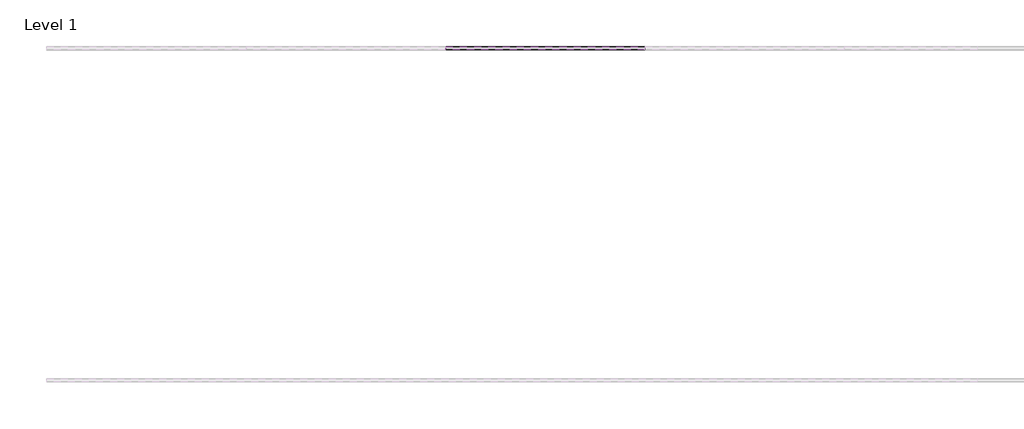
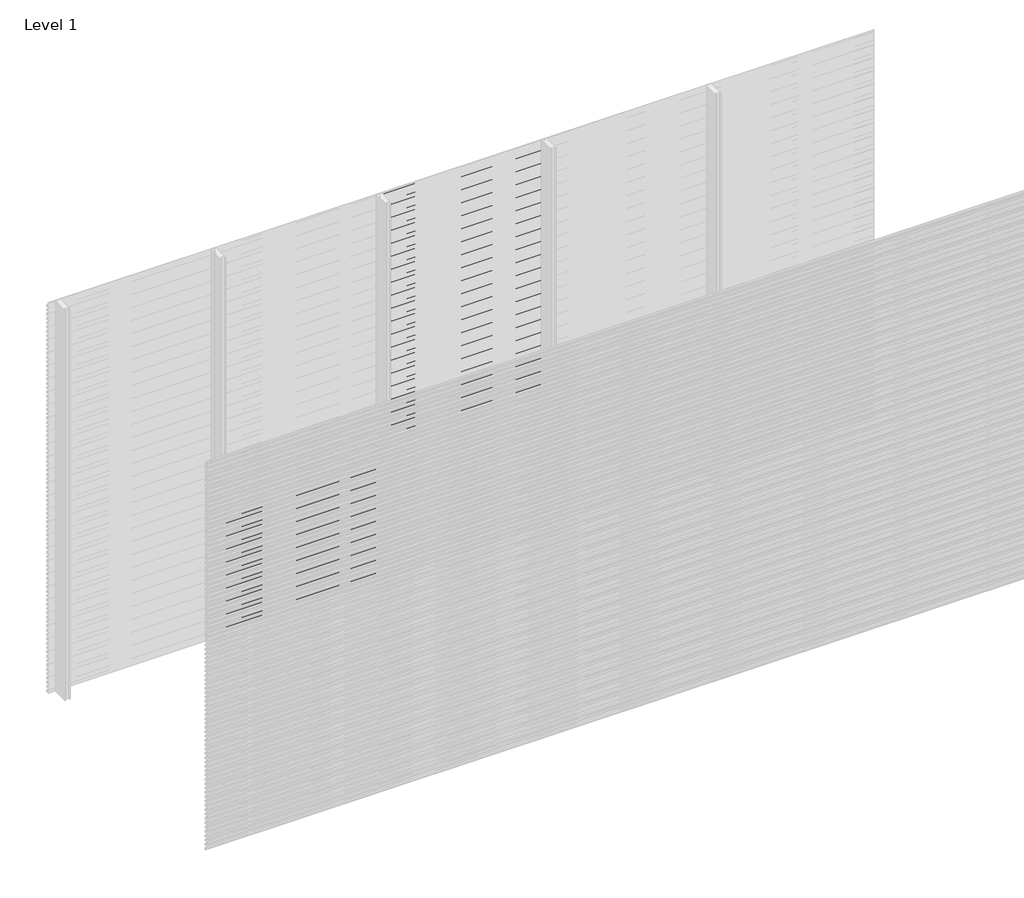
# One storey, part 19 of 507: 84 proxies.
"""IFC4 building model written with IfcOpenShell, lengths in millimetres."""

from ifc_helpers import new_model, si_unit, frame, origin, place, context, project, spatial, polyline, outline, extrude, element, save

model = new_model("IFC4")

# Units and contexts
model_context = context("Model", 3, world=origin())
ifc_project = project(units=[si_unit("LENGTHUNIT", "METRE", prefix="MILLI")], contexts=[model_context])

# Site, building, storey
site = spatial("IfcSite", under=ifc_project)
building = spatial("IfcBuilding", under=site)
storey = spatial("IfcBuildingStorey", under=building, Name="Level 1", Elevation=0.0)

# Proxies
placement = place(None, origin())
element("IfcBuildingElementProxy", 1, Name="Wall Sweeps", at=placement, inside=storey, context=model_context, shape_type="SweptSolid", body=[
    extrude(outline(polyline([(14003.4540136, 875.1), (14003.4540136, 861.6), (14002.2040136, 862.3216933), (14002.2040136, 874.3782281), (13983.0540136, 885.4345698), (13983.0540136, 899.1), (13984.3040136, 899.1), (13984.3040136, 886.1562577), (14003.4540136, 875.1)])), frame((46166.6208099, 0.0, 0.0), z_axis=(1.0, 0.0, 0.0), x_axis=(0.0, 1.0, 0.0)), (0.0, 0.0, 1.0), 1199.9999999),
])
element("IfcBuildingElementProxy", 2, Name="Wall Sweeps", at=placement, inside=storey, context=model_context, shape_type="SweptSolid", body=[
    extrude(outline(polyline([(14003.4540136, 841.8), (14003.4540136, 828.3), (14002.2040136, 829.0216933), (14002.2040136, 841.0782281), (13983.0540136, 852.1345698), (13983.0540136, 865.8), (13984.3040136, 865.8), (13984.3040136, 852.8562577), (14003.4540136, 841.8)])), frame((46166.6208099, 0.0, 0.0), z_axis=(1.0, 0.0, 0.0), x_axis=(0.0, 1.0, 0.0)), (0.0, 0.0, 1.0), 1199.9999999),
])
element("IfcBuildingElementProxy", 3, Name="Wall Sweeps", at=placement, inside=storey, context=model_context, shape_type="SweptSolid", body=[
    extrude(outline(polyline([(14003.4540136, 808.5), (14003.4540136, 795.0), (14002.2040136, 795.7216933), (14002.2040136, 807.7782281), (13983.0540136, 818.8345698), (13983.0540136, 832.5), (13984.3040136, 832.5), (13984.3040136, 819.5562577), (14003.4540136, 808.5)])), frame((46166.6208099, 0.0, 0.0), z_axis=(1.0, 0.0, 0.0), x_axis=(0.0, 1.0, 0.0)), (0.0, 0.0, 1.0), 1199.9999999),
])
element("IfcBuildingElementProxy", 4, Name="Wall Sweeps", at=placement, inside=storey, context=model_context, shape_type="SweptSolid", body=[
    extrude(outline(polyline([(14003.4540136, 775.2), (14003.4540136, 761.7), (14002.2040136, 762.4216933), (14002.2040136, 774.4782281), (13983.0540136, 785.5345698), (13983.0540136, 799.2), (13984.3040136, 799.2), (13984.3040136, 786.2562577), (14003.4540136, 775.2)])), frame((46166.6208099, 0.0, 0.0), z_axis=(1.0, 0.0, 0.0), x_axis=(0.0, 1.0, 0.0)), (0.0, 0.0, 1.0), 1199.9999999),
])
element("IfcBuildingElementProxy", 5, Name="Wall Sweeps", at=placement, inside=storey, context=model_context, shape_type="SweptSolid", body=[
    extrude(outline(polyline([(14003.4540136, 741.9), (14003.4540136, 728.4), (14002.2040136, 729.1216933), (14002.2040136, 741.1782281), (13983.0540136, 752.2345698), (13983.0540136, 765.9), (13984.3040136, 765.9), (13984.3040136, 752.9562577), (14003.4540136, 741.9)])), frame((46166.6208099, 0.0, 0.0), z_axis=(1.0, 0.0, 0.0), x_axis=(0.0, 1.0, 0.0)), (0.0, 0.0, 1.0), 1199.9999999),
])
element("IfcBuildingElementProxy", 6, Name="Wall Sweeps", at=placement, inside=storey, context=model_context, shape_type="SweptSolid", body=[
    extrude(outline(polyline([(14003.4540136, 708.6), (14003.4540136, 695.1), (14002.2040136, 695.8216933), (14002.2040136, 707.8782281), (13983.0540136, 718.9345698), (13983.0540136, 732.6), (13984.3040136, 732.6), (13984.3040136, 719.6562577), (14003.4540136, 708.6)])), frame((46166.6208099, 0.0, 0.0), z_axis=(1.0, 0.0, 0.0), x_axis=(0.0, 1.0, 0.0)), (0.0, 0.0, 1.0), 1199.9999999),
])
element("IfcBuildingElementProxy", 7, Name="Wall Sweeps", at=placement, inside=storey, context=model_context, shape_type="SweptSolid", body=[
    extrude(outline(polyline([(14003.4540136, 675.3), (14003.4540136, 661.8), (14002.2040136, 662.5216933), (14002.2040136, 674.5782281), (13983.0540136, 685.6345698), (13983.0540136, 699.3), (13984.3040136, 699.3), (13984.3040136, 686.3562577), (14003.4540136, 675.3)])), frame((46166.6208099, 0.0, 0.0), z_axis=(1.0, 0.0, 0.0), x_axis=(0.0, 1.0, 0.0)), (0.0, 0.0, 1.0), 1199.9999999),
])
element("IfcBuildingElementProxy", 8, Name="Wall Sweeps", at=placement, inside=storey, context=model_context, shape_type="SweptSolid", body=[
    extrude(outline(polyline([(14003.4540136, 642.0), (14003.4540136, 628.5), (14002.2040136, 629.2216933), (14002.2040136, 641.2782281), (13983.0540136, 652.3345698), (13983.0540136, 666.0), (13984.3040136, 666.0), (13984.3040136, 653.0562577), (14003.4540136, 642.0)])), frame((46166.6208099, 0.0, 0.0), z_axis=(1.0, 0.0, 0.0), x_axis=(0.0, 1.0, 0.0)), (0.0, 0.0, 1.0), 1199.9999999),
])
element("IfcBuildingElementProxy", 9, Name="Wall Sweeps", at=placement, inside=storey, context=model_context, shape_type="SweptSolid", body=[
    extrude(outline(polyline([(14003.4540136, 608.7), (14003.4540136, 595.2), (14002.2040136, 595.9216933), (14002.2040136, 607.9782281), (13983.0540136, 619.0345698), (13983.0540136, 632.7), (13984.3040136, 632.7), (13984.3040136, 619.7562577), (14003.4540136, 608.7)])), frame((46166.6208099, 0.0, 0.0), z_axis=(1.0, 0.0, 0.0), x_axis=(0.0, 1.0, 0.0)), (0.0, 0.0, 1.0), 1199.9999999),
])
element("IfcBuildingElementProxy", 10, Name="Wall Sweeps", at=placement, inside=storey, context=model_context, shape_type="SweptSolid", body=[
    extrude(outline(polyline([(14003.4540136, 575.4), (14003.4540136, 561.9), (14002.2040136, 562.6216933), (14002.2040136, 574.6782281), (13983.0540136, 585.7345698), (13983.0540136, 599.4), (13984.3040136, 599.4), (13984.3040136, 586.4562577), (14003.4540136, 575.4)])), frame((46166.6208099, 0.0, 0.0), z_axis=(1.0, 0.0, 0.0), x_axis=(0.0, 1.0, 0.0)), (0.0, 0.0, 1.0), 1199.9999999),
])
element("IfcBuildingElementProxy", 11, Name="Wall Sweeps", at=placement, inside=storey, context=model_context, shape_type="SweptSolid", body=[
    extrude(outline(polyline([(14003.4540136, 542.1), (14003.4540136, 528.6), (14002.2040136, 529.3216933), (14002.2040136, 541.3782281), (13983.0540136, 552.4345698), (13983.0540136, 566.1), (13984.3040136, 566.1), (13984.3040136, 553.1562577), (14003.4540136, 542.1)])), frame((46166.6208099, 0.0, 0.0), z_axis=(1.0, 0.0, 0.0), x_axis=(0.0, 1.0, 0.0)), (0.0, 0.0, 1.0), 1199.9999999),
])
element("IfcBuildingElementProxy", 12, Name="Wall Sweeps", at=placement, inside=storey, context=model_context, shape_type="SweptSolid", body=[
    extrude(outline(polyline([(14003.4540136, 508.8), (14003.4540136, 495.3), (14002.2040136, 496.0216933), (14002.2040136, 508.0782281), (13983.0540136, 519.1345698), (13983.0540136, 532.8), (13984.3040136, 532.8), (13984.3040136, 519.8562577), (14003.4540136, 508.8)])), frame((46166.6208099, 0.0, 0.0), z_axis=(1.0, 0.0, 0.0), x_axis=(0.0, 1.0, 0.0)), (0.0, 0.0, 1.0), 1199.9999999),
])
element("IfcBuildingElementProxy", 13, Name="Wall Sweeps", at=placement, inside=storey, context=model_context, shape_type="SweptSolid", body=[
    extrude(outline(polyline([(14003.4540136, 475.5), (14003.4540136, 462.0), (14002.2040136, 462.7216933), (14002.2040136, 474.7782281), (13983.0540136, 485.8345698), (13983.0540136, 499.5), (13984.3040136, 499.5), (13984.3040136, 486.5562577), (14003.4540136, 475.5)])), frame((46166.6208099, 0.0, 0.0), z_axis=(1.0, 0.0, 0.0), x_axis=(0.0, 1.0, 0.0)), (0.0, 0.0, 1.0), 1199.9999999),
])
element("IfcBuildingElementProxy", 14, Name="Wall Sweeps", at=placement, inside=storey, context=model_context, shape_type="SweptSolid", body=[
    extrude(outline(polyline([(14003.4540136, 442.2), (14003.4540136, 428.7), (14002.2040136, 429.4216933), (14002.2040136, 441.4782281), (13983.0540136, 452.5345698), (13983.0540136, 466.2), (13984.3040136, 466.2), (13984.3040136, 453.2562577), (14003.4540136, 442.2)])), frame((46166.6208099, 0.0, 0.0), z_axis=(1.0, 0.0, 0.0), x_axis=(0.0, 1.0, 0.0)), (0.0, 0.0, 1.0), 1199.9999999),
])
element("IfcBuildingElementProxy", 15, Name="Wall Sweeps", at=placement, inside=storey, context=model_context, shape_type="SweptSolid", body=[
    extrude(outline(polyline([(14003.4540136, 408.9), (14003.4540136, 395.4), (14002.2040136, 396.1216933), (14002.2040136, 408.1782281), (13983.0540136, 419.2345698), (13983.0540136, 432.9), (13984.3040136, 432.9), (13984.3040136, 419.9562577), (14003.4540136, 408.9)])), frame((46166.6208099, 0.0, 0.0), z_axis=(1.0, 0.0, 0.0), x_axis=(0.0, 1.0, 0.0)), (0.0, 0.0, 1.0), 1199.9999999),
])
element("IfcBuildingElementProxy", 16, Name="Wall Sweeps", at=placement, inside=storey, context=model_context, shape_type="SweptSolid", body=[
    extrude(outline(polyline([(14003.4540136, 375.6), (14003.4540136, 362.1), (14002.2040136, 362.8216933), (14002.2040136, 374.8782281), (13983.0540136, 385.9345698), (13983.0540136, 399.6), (13984.3040136, 399.6), (13984.3040136, 386.6562577), (14003.4540136, 375.6)])), frame((46166.6208099, 0.0, 0.0), z_axis=(1.0, 0.0, 0.0), x_axis=(0.0, 1.0, 0.0)), (0.0, 0.0, 1.0), 1199.9999999),
])
element("IfcBuildingElementProxy", 17, Name="Wall Sweeps", at=placement, inside=storey, context=model_context, shape_type="SweptSolid", body=[
    extrude(outline(polyline([(14003.4540136, 342.3), (14003.4540136, 328.8), (14002.2040136, 329.5216933), (14002.2040136, 341.5782281), (13983.0540136, 352.6345698), (13983.0540136, 366.3), (13984.3040136, 366.3), (13984.3040136, 353.3562577), (14003.4540136, 342.3)])), frame((46166.6208099, 0.0, 0.0), z_axis=(1.0, 0.0, 0.0), x_axis=(0.0, 1.0, 0.0)), (0.0, 0.0, 1.0), 1199.9999999),
])
element("IfcBuildingElementProxy", 18, Name="Wall Sweeps", at=placement, inside=storey, context=model_context, shape_type="SweptSolid", body=[
    extrude(outline(polyline([(14003.4540136, 309.0), (14003.4540136, 295.5), (14002.2040136, 296.2216933), (14002.2040136, 308.2782281), (13983.0540136, 319.3345698), (13983.0540136, 333.0), (13984.3040136, 333.0), (13984.3040136, 320.0562577), (14003.4540136, 309.0)])), frame((46166.6208099, 0.0, 0.0), z_axis=(1.0, 0.0, 0.0), x_axis=(0.0, 1.0, 0.0)), (0.0, 0.0, 1.0), 1199.9999999),
])
element("IfcBuildingElementProxy", 19, Name="Wall Sweeps", at=placement, inside=storey, context=model_context, shape_type="SweptSolid", body=[
    extrude(outline(polyline([(14003.4540136, 275.7), (14003.4540136, 262.2), (14002.2040136, 262.9216933), (14002.2040136, 274.9782281), (13983.0540136, 286.0345698), (13983.0540136, 299.7), (13984.3040136, 299.7), (13984.3040136, 286.7562577), (14003.4540136, 275.7)])), frame((46166.6208099, 0.0, 0.0), z_axis=(1.0, 0.0, 0.0), x_axis=(0.0, 1.0, 0.0)), (0.0, 0.0, 1.0), 1199.9999999),
])
element("IfcBuildingElementProxy", 20, Name="Wall Sweeps", at=placement, inside=storey, context=model_context, shape_type="SweptSolid", body=[
    extrude(outline(polyline([(14003.4540136, 242.4), (14003.4540136, 228.9), (14002.2040136, 229.6216933), (14002.2040136, 241.6782281), (13983.0540136, 252.7345698), (13983.0540136, 266.4), (13984.3040136, 266.4), (13984.3040136, 253.4562577), (14003.4540136, 242.4)])), frame((46166.6208099, 0.0, 0.0), z_axis=(1.0, 0.0, 0.0), x_axis=(0.0, 1.0, 0.0)), (0.0, 0.0, 1.0), 1199.9999999),
])
element("IfcBuildingElementProxy", 21, Name="Wall Sweeps", at=placement, inside=storey, context=model_context, shape_type="SweptSolid", body=[
    extrude(outline(polyline([(14003.4540136, 209.1), (14003.4540136, 195.6), (14002.2040136, 196.3216933), (14002.2040136, 208.3782281), (13983.0540136, 219.4345698), (13983.0540136, 233.1), (13984.3040136, 233.1), (13984.3040136, 220.1562577), (14003.4540136, 209.1)])), frame((46166.6208099, 0.0, 0.0), z_axis=(1.0, 0.0, 0.0), x_axis=(0.0, 1.0, 0.0)), (0.0, 0.0, 1.0), 1199.9999999),
])
element("IfcBuildingElementProxy", 22, Name="Wall Sweeps", at=placement, inside=storey, context=model_context, shape_type="SweptSolid", body=[
    extrude(outline(polyline([(14003.4540136, 175.8), (14003.4540136, 162.3), (14002.2040136, 163.0216933), (14002.2040136, 175.0782281), (13983.0540136, 186.1345698), (13983.0540136, 199.8), (13984.3040136, 199.8), (13984.3040136, 186.8562577), (14003.4540136, 175.8)])), frame((46166.6208099, 0.0, 0.0), z_axis=(1.0, 0.0, 0.0), x_axis=(0.0, 1.0, 0.0)), (0.0, 0.0, 1.0), 1199.9999999),
])
element("IfcBuildingElementProxy", 23, Name="Wall Sweeps", at=placement, inside=storey, context=model_context, shape_type="SweptSolid", body=[
    extrude(outline(polyline([(14003.4540136, 142.5), (14003.4540136, 129.0), (14002.2040136, 129.7216933), (14002.2040136, 141.7782281), (13983.0540136, 152.8345698), (13983.0540136, 166.5), (13984.3040136, 166.5), (13984.3040136, 153.5562577), (14003.4540136, 142.5)])), frame((46166.6208099, 0.0, 0.0), z_axis=(1.0, 0.0, 0.0), x_axis=(0.0, 1.0, 0.0)), (0.0, 0.0, 1.0), 1199.9999999),
])
element("IfcBuildingElementProxy", 24, Name="Wall Sweeps", at=placement, inside=storey, context=model_context, shape_type="SweptSolid", body=[
    extrude(outline(polyline([(14003.4540136, 109.2), (14003.4540136, 95.7), (14002.2040136, 96.4216933), (14002.2040136, 108.4782281), (13983.0540136, 119.5345698), (13983.0540136, 133.2), (13984.3040136, 133.2), (13984.3040136, 120.2562577), (14003.4540136, 109.2)])), frame((46166.6208099, 0.0, 0.0), z_axis=(1.0, 0.0, 0.0), x_axis=(0.0, 1.0, 0.0)), (0.0, 0.0, 1.0), 1199.9999999),
])
element("IfcBuildingElementProxy", 25, Name="Wall Sweeps", at=placement, inside=storey, context=model_context, shape_type="SweptSolid", body=[
    extrude(outline(polyline([(14003.4540136, 75.9), (14003.4540136, 62.4), (14002.2040136, 63.1216933), (14002.2040136, 75.1782281), (13983.0540136, 86.2345698), (13983.0540136, 99.9), (13984.3040136, 99.9), (13984.3040136, 86.9562577), (14003.4540136, 75.9)])), frame((46166.6208099, 0.0, 0.0), z_axis=(1.0, 0.0, 0.0), x_axis=(0.0, 1.0, 0.0)), (0.0, 0.0, 1.0), 1199.9999999),
])
element("IfcBuildingElementProxy", 26, Name="Wall Sweeps", at=placement, inside=storey, context=model_context, shape_type="SweptSolid", body=[
    extrude(outline(polyline([(14003.4540136, 42.6), (14003.4540136, 29.1), (14002.2040136, 29.8216933), (14002.2040136, 41.8782281), (13983.0540136, 52.9345698), (13983.0540136, 66.6), (13984.3040136, 66.6), (13984.3040136, 53.6562577), (14003.4540136, 42.6)])), frame((46166.6208099, 0.0, 0.0), z_axis=(1.0, 0.0, 0.0), x_axis=(0.0, 1.0, 0.0)), (0.0, 0.0, 1.0), 1199.9999999),
])
element("IfcBuildingElementProxy", 27, Name="Wall Sweeps", at=placement, inside=storey, context=model_context, shape_type="SweptSolid", body=[
    extrude(outline(polyline([(14003.4540136, 9.3), (14003.4540136, -4.2), (14002.2040136, -3.4783067), (14002.2040136, 8.5782281), (13983.0540136, 19.6345698), (13983.0540136, 33.3), (13984.3040136, 33.3), (13984.3040136, 20.3562577), (14003.4540136, 9.3)])), frame((46166.6208099, 0.0, 0.0), z_axis=(1.0, 0.0, 0.0), x_axis=(0.0, 1.0, 0.0)), (0.0, 0.0, 1.0), 1199.9999999),
])
element("IfcBuildingElementProxy", 28, Name="Wall Sweeps", at=placement, inside=storey, context=model_context, shape_type="SweptSolid", body=[
    extrude(outline(polyline([(14003.4540136, 2973.0), (14003.4540136, 2959.5), (14002.2040136, 2960.2216933), (14002.2040136, 2972.2782281), (13983.0540136, 2983.3345698), (13983.0540136, 2997.0), (13984.3040136, 2997.0), (13984.3040136, 2984.0562577), (14003.4540136, 2973.0)])), frame((47366.6208097, 0.0, 0.0), z_axis=(1.0, 0.0, 0.0), x_axis=(0.0, 1.0, 0.0)), (0.0, 0.0, 1.0), 1199.9999999),
])
element("IfcBuildingElementProxy", 29, Name="Wall Sweeps", at=placement, inside=storey, context=model_context, shape_type="SweptSolid", body=[
    extrude(outline(polyline([(14003.4540136, 2939.7), (14003.4540136, 2926.2), (14002.2040136, 2926.9216933), (14002.2040136, 2938.9782281), (13983.0540136, 2950.0345698), (13983.0540136, 2963.7), (13984.3040136, 2963.7), (13984.3040136, 2950.7562577), (14003.4540136, 2939.7)])), frame((47366.6208097, 0.0, 0.0), z_axis=(1.0, 0.0, 0.0), x_axis=(0.0, 1.0, 0.0)), (0.0, 0.0, 1.0), 1199.9999999),
])
element("IfcBuildingElementProxy", 30, Name="Wall Sweeps", at=placement, inside=storey, context=model_context, shape_type="SweptSolid", body=[
    extrude(outline(polyline([(14003.4540136, 2906.4), (14003.4540136, 2892.9), (14002.2040136, 2893.6216933), (14002.2040136, 2905.6782281), (13983.0540136, 2916.7345698), (13983.0540136, 2930.4), (13984.3040136, 2930.4), (13984.3040136, 2917.4562577), (14003.4540136, 2906.4)])), frame((47366.6208097, 0.0, 0.0), z_axis=(1.0, 0.0, 0.0), x_axis=(0.0, 1.0, 0.0)), (0.0, 0.0, 1.0), 1199.9999999),
])
element("IfcBuildingElementProxy", 31, Name="Wall Sweeps", at=placement, inside=storey, context=model_context, shape_type="SweptSolid", body=[
    extrude(outline(polyline([(14003.4540136, 2873.1), (14003.4540136, 2859.6), (14002.2040136, 2860.3216933), (14002.2040136, 2872.3782281), (13983.0540136, 2883.4345698), (13983.0540136, 2897.1), (13984.3040136, 2897.1), (13984.3040136, 2884.1562577), (14003.4540136, 2873.1)])), frame((47366.6208097, 0.0, 0.0), z_axis=(1.0, 0.0, 0.0), x_axis=(0.0, 1.0, 0.0)), (0.0, 0.0, 1.0), 1199.9999999),
])
element("IfcBuildingElementProxy", 32, Name="Wall Sweeps", at=placement, inside=storey, context=model_context, shape_type="SweptSolid", body=[
    extrude(outline(polyline([(14003.4540136, 2839.8), (14003.4540136, 2826.3), (14002.2040136, 2827.0216933), (14002.2040136, 2839.0782281), (13983.0540136, 2850.1345698), (13983.0540136, 2863.8), (13984.3040136, 2863.8), (13984.3040136, 2850.8562577), (14003.4540136, 2839.8)])), frame((47366.6208097, 0.0, 0.0), z_axis=(1.0, 0.0, 0.0), x_axis=(0.0, 1.0, 0.0)), (0.0, 0.0, 1.0), 1199.9999999),
])
element("IfcBuildingElementProxy", 33, Name="Wall Sweeps", at=placement, inside=storey, context=model_context, shape_type="SweptSolid", body=[
    extrude(outline(polyline([(14003.4540136, 2806.5), (14003.4540136, 2793.0), (14002.2040136, 2793.7216933), (14002.2040136, 2805.7782281), (13983.0540136, 2816.8345698), (13983.0540136, 2830.5), (13984.3040136, 2830.5), (13984.3040136, 2817.5562577), (14003.4540136, 2806.5)])), frame((47366.6208097, 0.0, 0.0), z_axis=(1.0, 0.0, 0.0), x_axis=(0.0, 1.0, 0.0)), (0.0, 0.0, 1.0), 1199.9999999),
])
element("IfcBuildingElementProxy", 34, Name="Wall Sweeps", at=placement, inside=storey, context=model_context, shape_type="SweptSolid", body=[
    extrude(outline(polyline([(14003.4540136, 2773.2), (14003.4540136, 2759.7), (14002.2040136, 2760.4216933), (14002.2040136, 2772.4782281), (13983.0540136, 2783.5345698), (13983.0540136, 2797.2), (13984.3040136, 2797.2), (13984.3040136, 2784.2562577), (14003.4540136, 2773.2)])), frame((47366.6208097, 0.0, 0.0), z_axis=(1.0, 0.0, 0.0), x_axis=(0.0, 1.0, 0.0)), (0.0, 0.0, 1.0), 1199.9999999),
])
element("IfcBuildingElementProxy", 35, Name="Wall Sweeps", at=placement, inside=storey, context=model_context, shape_type="SweptSolid", body=[
    extrude(outline(polyline([(14003.4540136, 2739.9), (14003.4540136, 2726.4), (14002.2040136, 2727.1216933), (14002.2040136, 2739.1782281), (13983.0540136, 2750.2345698), (13983.0540136, 2763.9), (13984.3040136, 2763.9), (13984.3040136, 2750.9562577), (14003.4540136, 2739.9)])), frame((47366.6208097, 0.0, 0.0), z_axis=(1.0, 0.0, 0.0), x_axis=(0.0, 1.0, 0.0)), (0.0, 0.0, 1.0), 1199.9999999),
])
element("IfcBuildingElementProxy", 36, Name="Wall Sweeps", at=placement, inside=storey, context=model_context, shape_type="SweptSolid", body=[
    extrude(outline(polyline([(14003.4540136, 2706.6), (14003.4540136, 2693.1), (14002.2040136, 2693.8216933), (14002.2040136, 2705.8782281), (13983.0540136, 2716.9345698), (13983.0540136, 2730.6), (13984.3040136, 2730.6), (13984.3040136, 2717.6562577), (14003.4540136, 2706.6)])), frame((47366.6208097, 0.0, 0.0), z_axis=(1.0, 0.0, 0.0), x_axis=(0.0, 1.0, 0.0)), (0.0, 0.0, 1.0), 1199.9999999),
])
element("IfcBuildingElementProxy", 37, Name="Wall Sweeps", at=placement, inside=storey, context=model_context, shape_type="SweptSolid", body=[
    extrude(outline(polyline([(14003.4540136, 2673.3), (14003.4540136, 2659.8), (14002.2040136, 2660.5216933), (14002.2040136, 2672.5782281), (13983.0540136, 2683.6345698), (13983.0540136, 2697.3), (13984.3040136, 2697.3), (13984.3040136, 2684.3562577), (14003.4540136, 2673.3)])), frame((47366.6208097, 0.0, 0.0), z_axis=(1.0, 0.0, 0.0), x_axis=(0.0, 1.0, 0.0)), (0.0, 0.0, 1.0), 1199.9999999),
])
element("IfcBuildingElementProxy", 38, Name="Wall Sweeps", at=placement, inside=storey, context=model_context, shape_type="SweptSolid", body=[
    extrude(outline(polyline([(14003.4540136, 2640.0), (14003.4540136, 2626.5), (14002.2040136, 2627.2216933), (14002.2040136, 2639.2782281), (13983.0540136, 2650.3345698), (13983.0540136, 2664.0), (13984.3040136, 2664.0), (13984.3040136, 2651.0562577), (14003.4540136, 2640.0)])), frame((47366.6208097, 0.0, 0.0), z_axis=(1.0, 0.0, 0.0), x_axis=(0.0, 1.0, 0.0)), (0.0, 0.0, 1.0), 1199.9999999),
])
element("IfcBuildingElementProxy", 39, Name="Wall Sweeps", at=placement, inside=storey, context=model_context, shape_type="SweptSolid", body=[
    extrude(outline(polyline([(14003.4540136, 2606.7), (14003.4540136, 2593.2), (14002.2040136, 2593.9216933), (14002.2040136, 2605.9782281), (13983.0540136, 2617.0345698), (13983.0540136, 2630.7), (13984.3040136, 2630.7), (13984.3040136, 2617.7562577), (14003.4540136, 2606.7)])), frame((47366.6208097, 0.0, 0.0), z_axis=(1.0, 0.0, 0.0), x_axis=(0.0, 1.0, 0.0)), (0.0, 0.0, 1.0), 1199.9999999),
])
element("IfcBuildingElementProxy", 40, Name="Wall Sweeps", at=placement, inside=storey, context=model_context, shape_type="SweptSolid", body=[
    extrude(outline(polyline([(14003.4540136, 2573.4), (14003.4540136, 2559.9), (14002.2040136, 2560.6216933), (14002.2040136, 2572.6782281), (13983.0540136, 2583.7345698), (13983.0540136, 2597.4), (13984.3040136, 2597.4), (13984.3040136, 2584.4562577), (14003.4540136, 2573.4)])), frame((47366.6208097, 0.0, 0.0), z_axis=(1.0, 0.0, 0.0), x_axis=(0.0, 1.0, 0.0)), (0.0, 0.0, 1.0), 1199.9999999),
])
element("IfcBuildingElementProxy", 41, Name="Wall Sweeps", at=placement, inside=storey, context=model_context, shape_type="SweptSolid", body=[
    extrude(outline(polyline([(14003.4540136, 2540.1), (14003.4540136, 2526.6), (14002.2040136, 2527.3216933), (14002.2040136, 2539.3782281), (13983.0540136, 2550.4345698), (13983.0540136, 2564.1), (13984.3040136, 2564.1), (13984.3040136, 2551.1562577), (14003.4540136, 2540.1)])), frame((47366.6208097, 0.0, 0.0), z_axis=(1.0, 0.0, 0.0), x_axis=(0.0, 1.0, 0.0)), (0.0, 0.0, 1.0), 1199.9999999),
])
element("IfcBuildingElementProxy", 42, Name="Wall Sweeps", at=placement, inside=storey, context=model_context, shape_type="SweptSolid", body=[
    extrude(outline(polyline([(14003.4540136, 2506.8), (14003.4540136, 2493.3), (14002.2040136, 2494.0216933), (14002.2040136, 2506.0782281), (13983.0540136, 2517.1345698), (13983.0540136, 2530.8), (13984.3040136, 2530.8), (13984.3040136, 2517.8562577), (14003.4540136, 2506.8)])), frame((47366.6208097, 0.0, 0.0), z_axis=(1.0, 0.0, 0.0), x_axis=(0.0, 1.0, 0.0)), (0.0, 0.0, 1.0), 1199.9999999),
])
element("IfcBuildingElementProxy", 43, Name="Wall Sweeps", at=placement, inside=storey, context=model_context, shape_type="SweptSolid", body=[
    extrude(outline(polyline([(14003.4540136, 2473.5), (14003.4540136, 2460.0), (14002.2040136, 2460.7216933), (14002.2040136, 2472.7782281), (13983.0540136, 2483.8345698), (13983.0540136, 2497.5), (13984.3040136, 2497.5), (13984.3040136, 2484.5562577), (14003.4540136, 2473.5)])), frame((47366.6208097, 0.0, 0.0), z_axis=(1.0, 0.0, 0.0), x_axis=(0.0, 1.0, 0.0)), (0.0, 0.0, 1.0), 1199.9999999),
])
element("IfcBuildingElementProxy", 44, Name="Wall Sweeps", at=placement, inside=storey, context=model_context, shape_type="SweptSolid", body=[
    extrude(outline(polyline([(14003.4540136, 2440.2), (14003.4540136, 2426.7), (14002.2040136, 2427.4216933), (14002.2040136, 2439.4782281), (13983.0540136, 2450.5345698), (13983.0540136, 2464.2), (13984.3040136, 2464.2), (13984.3040136, 2451.2562577), (14003.4540136, 2440.2)])), frame((47366.6208097, 0.0, 0.0), z_axis=(1.0, 0.0, 0.0), x_axis=(0.0, 1.0, 0.0)), (0.0, 0.0, 1.0), 1199.9999999),
])
element("IfcBuildingElementProxy", 45, Name="Wall Sweeps", at=placement, inside=storey, context=model_context, shape_type="SweptSolid", body=[
    extrude(outline(polyline([(14003.4540136, 2406.9), (14003.4540136, 2393.4), (14002.2040136, 2394.1216933), (14002.2040136, 2406.1782281), (13983.0540136, 2417.2345698), (13983.0540136, 2430.9), (13984.3040136, 2430.9), (13984.3040136, 2417.9562577), (14003.4540136, 2406.9)])), frame((47366.6208097, 0.0, 0.0), z_axis=(1.0, 0.0, 0.0), x_axis=(0.0, 1.0, 0.0)), (0.0, 0.0, 1.0), 1199.9999999),
])
element("IfcBuildingElementProxy", 46, Name="Wall Sweeps", at=placement, inside=storey, context=model_context, shape_type="SweptSolid", body=[
    extrude(outline(polyline([(14003.4540136, 2373.6), (14003.4540136, 2360.1), (14002.2040136, 2360.8216933), (14002.2040136, 2372.8782281), (13983.0540136, 2383.9345698), (13983.0540136, 2397.6), (13984.3040136, 2397.6), (13984.3040136, 2384.6562577), (14003.4540136, 2373.6)])), frame((47366.6208097, 0.0, 0.0), z_axis=(1.0, 0.0, 0.0), x_axis=(0.0, 1.0, 0.0)), (0.0, 0.0, 1.0), 1199.9999999),
])
element("IfcBuildingElementProxy", 47, Name="Wall Sweeps", at=placement, inside=storey, context=model_context, shape_type="SweptSolid", body=[
    extrude(outline(polyline([(14003.4540136, 2340.3), (14003.4540136, 2326.8), (14002.2040136, 2327.5216933), (14002.2040136, 2339.5782281), (13983.0540136, 2350.6345698), (13983.0540136, 2364.3), (13984.3040136, 2364.3), (13984.3040136, 2351.3562577), (14003.4540136, 2340.3)])), frame((47366.6208097, 0.0, 0.0), z_axis=(1.0, 0.0, 0.0), x_axis=(0.0, 1.0, 0.0)), (0.0, 0.0, 1.0), 1199.9999999),
])
element("IfcBuildingElementProxy", 48, Name="Wall Sweeps", at=placement, inside=storey, context=model_context, shape_type="SweptSolid", body=[
    extrude(outline(polyline([(14003.4540136, 2307.0), (14003.4540136, 2293.5), (14002.2040136, 2294.2216933), (14002.2040136, 2306.2782281), (13983.0540136, 2317.3345698), (13983.0540136, 2331.0), (13984.3040136, 2331.0), (13984.3040136, 2318.0562577), (14003.4540136, 2307.0)])), frame((47366.6208097, 0.0, 0.0), z_axis=(1.0, 0.0, 0.0), x_axis=(0.0, 1.0, 0.0)), (0.0, 0.0, 1.0), 1199.9999999),
])
element("IfcBuildingElementProxy", 49, Name="Wall Sweeps", at=placement, inside=storey, context=model_context, shape_type="SweptSolid", body=[
    extrude(outline(polyline([(14003.4540136, 2273.7), (14003.4540136, 2260.2), (14002.2040136, 2260.9216933), (14002.2040136, 2272.9782281), (13983.0540136, 2284.0345698), (13983.0540136, 2297.7), (13984.3040136, 2297.7), (13984.3040136, 2284.7562577), (14003.4540136, 2273.7)])), frame((47366.6208097, 0.0, 0.0), z_axis=(1.0, 0.0, 0.0), x_axis=(0.0, 1.0, 0.0)), (0.0, 0.0, 1.0), 1199.9999999),
])
element("IfcBuildingElementProxy", 50, Name="Wall Sweeps", at=placement, inside=storey, context=model_context, shape_type="SweptSolid", body=[
    extrude(outline(polyline([(14003.4540136, 2240.4), (14003.4540136, 2226.9), (14002.2040136, 2227.6216933), (14002.2040136, 2239.6782281), (13983.0540136, 2250.7345698), (13983.0540136, 2264.4), (13984.3040136, 2264.4), (13984.3040136, 2251.4562577), (14003.4540136, 2240.4)])), frame((47366.6208097, 0.0, 0.0), z_axis=(1.0, 0.0, 0.0), x_axis=(0.0, 1.0, 0.0)), (0.0, 0.0, 1.0), 1199.9999999),
])
element("IfcBuildingElementProxy", 51, Name="Wall Sweeps", at=placement, inside=storey, context=model_context, shape_type="SweptSolid", body=[
    extrude(outline(polyline([(14003.4540136, 2207.1), (14003.4540136, 2193.6), (14002.2040136, 2194.3216933), (14002.2040136, 2206.3782281), (13983.0540136, 2217.4345698), (13983.0540136, 2231.1), (13984.3040136, 2231.1), (13984.3040136, 2218.1562577), (14003.4540136, 2207.1)])), frame((47366.6208097, 0.0, 0.0), z_axis=(1.0, 0.0, 0.0), x_axis=(0.0, 1.0, 0.0)), (0.0, 0.0, 1.0), 1199.9999999),
])
element("IfcBuildingElementProxy", 52, Name="Wall Sweeps", at=placement, inside=storey, context=model_context, shape_type="SweptSolid", body=[
    extrude(outline(polyline([(14003.4540136, 2173.8), (14003.4540136, 2160.3), (14002.2040136, 2161.0216933), (14002.2040136, 2173.0782281), (13983.0540136, 2184.1345698), (13983.0540136, 2197.8), (13984.3040136, 2197.8), (13984.3040136, 2184.8562577), (14003.4540136, 2173.8)])), frame((47366.6208097, 0.0, 0.0), z_axis=(1.0, 0.0, 0.0), x_axis=(0.0, 1.0, 0.0)), (0.0, 0.0, 1.0), 1199.9999999),
])
element("IfcBuildingElementProxy", 53, Name="Wall Sweeps", at=placement, inside=storey, context=model_context, shape_type="SweptSolid", body=[
    extrude(outline(polyline([(14003.4540136, 2140.5), (14003.4540136, 2127.0), (14002.2040136, 2127.7216933), (14002.2040136, 2139.7782281), (13983.0540136, 2150.8345698), (13983.0540136, 2164.5), (13984.3040136, 2164.5), (13984.3040136, 2151.5562577), (14003.4540136, 2140.5)])), frame((47366.6208097, 0.0, 0.0), z_axis=(1.0, 0.0, 0.0), x_axis=(0.0, 1.0, 0.0)), (0.0, 0.0, 1.0), 1199.9999999),
])
element("IfcBuildingElementProxy", 54, Name="Wall Sweeps", at=placement, inside=storey, context=model_context, shape_type="SweptSolid", body=[
    extrude(outline(polyline([(14003.4540136, 2107.2), (14003.4540136, 2093.7), (14002.2040136, 2094.4216933), (14002.2040136, 2106.4782281), (13983.0540136, 2117.5345698), (13983.0540136, 2131.2), (13984.3040136, 2131.2), (13984.3040136, 2118.2562577), (14003.4540136, 2107.2)])), frame((47366.6208097, 0.0, 0.0), z_axis=(1.0, 0.0, 0.0), x_axis=(0.0, 1.0, 0.0)), (0.0, 0.0, 1.0), 1199.9999999),
])
element("IfcBuildingElementProxy", 55, Name="Wall Sweeps", at=placement, inside=storey, context=model_context, shape_type="SweptSolid", body=[
    extrude(outline(polyline([(14003.4540136, 2073.9), (14003.4540136, 2060.4), (14002.2040136, 2061.1216933), (14002.2040136, 2073.1782281), (13983.0540136, 2084.2345698), (13983.0540136, 2097.9), (13984.3040136, 2097.9), (13984.3040136, 2084.9562577), (14003.4540136, 2073.9)])), frame((47366.6208097, 0.0, 0.0), z_axis=(1.0, 0.0, 0.0), x_axis=(0.0, 1.0, 0.0)), (0.0, 0.0, 1.0), 1199.9999999),
])
element("IfcBuildingElementProxy", 56, Name="Wall Sweeps", at=placement, inside=storey, context=model_context, shape_type="SweptSolid", body=[
    extrude(outline(polyline([(14003.4540136, 2040.6), (14003.4540136, 2027.1), (14002.2040136, 2027.8216933), (14002.2040136, 2039.8782281), (13983.0540136, 2050.9345698), (13983.0540136, 2064.6), (13984.3040136, 2064.6), (13984.3040136, 2051.6562577), (14003.4540136, 2040.6)])), frame((47366.6208097, 0.0, 0.0), z_axis=(1.0, 0.0, 0.0), x_axis=(0.0, 1.0, 0.0)), (0.0, 0.0, 1.0), 1199.9999999),
])
element("IfcBuildingElementProxy", 57, Name="Wall Sweeps", at=placement, inside=storey, context=model_context, shape_type="SweptSolid", body=[
    extrude(outline(polyline([(14003.4540136, 2007.3), (14003.4540136, 1993.8), (14002.2040136, 1994.5216933), (14002.2040136, 2006.5782281), (13983.0540136, 2017.6345698), (13983.0540136, 2031.3), (13984.3040136, 2031.3), (13984.3040136, 2018.3562577), (14003.4540136, 2007.3)])), frame((47366.6208097, 0.0, 0.0), z_axis=(1.0, 0.0, 0.0), x_axis=(0.0, 1.0, 0.0)), (0.0, 0.0, 1.0), 1199.9999999),
])
element("IfcBuildingElementProxy", 58, Name="Wall Sweeps", at=placement, inside=storey, context=model_context, shape_type="SweptSolid", body=[
    extrude(outline(polyline([(14003.4540136, 1974.0), (14003.4540136, 1960.5), (14002.2040136, 1961.2216933), (14002.2040136, 1973.2782281), (13983.0540136, 1984.3345698), (13983.0540136, 1998.0), (13984.3040136, 1998.0), (13984.3040136, 1985.0562577), (14003.4540136, 1974.0)])), frame((47366.6208097, 0.0, 0.0), z_axis=(1.0, 0.0, 0.0), x_axis=(0.0, 1.0, 0.0)), (0.0, 0.0, 1.0), 1199.9999999),
])
element("IfcBuildingElementProxy", 59, Name="Wall Sweeps", at=placement, inside=storey, context=model_context, shape_type="SweptSolid", body=[
    extrude(outline(polyline([(14003.4540136, 1940.7), (14003.4540136, 1927.2), (14002.2040136, 1927.9216933), (14002.2040136, 1939.9782281), (13983.0540136, 1951.0345698), (13983.0540136, 1964.7), (13984.3040136, 1964.7), (13984.3040136, 1951.7562577), (14003.4540136, 1940.7)])), frame((47366.6208097, 0.0, 0.0), z_axis=(1.0, 0.0, 0.0), x_axis=(0.0, 1.0, 0.0)), (0.0, 0.0, 1.0), 1199.9999999),
])
element("IfcBuildingElementProxy", 60, Name="Wall Sweeps", at=placement, inside=storey, context=model_context, shape_type="SweptSolid", body=[
    extrude(outline(polyline([(14003.4540136, 1907.4), (14003.4540136, 1893.9), (14002.2040136, 1894.6216933), (14002.2040136, 1906.6782281), (13983.0540136, 1917.7345698), (13983.0540136, 1931.4), (13984.3040136, 1931.4), (13984.3040136, 1918.4562577), (14003.4540136, 1907.4)])), frame((47366.6208097, 0.0, 0.0), z_axis=(1.0, 0.0, 0.0), x_axis=(0.0, 1.0, 0.0)), (0.0, 0.0, 1.0), 1199.9999999),
])
element("IfcBuildingElementProxy", 61, Name="Wall Sweeps", at=placement, inside=storey, context=model_context, shape_type="SweptSolid", body=[
    extrude(outline(polyline([(14003.4540136, 1874.1), (14003.4540136, 1860.6), (14002.2040136, 1861.3216933), (14002.2040136, 1873.3782281), (13983.0540136, 1884.4345698), (13983.0540136, 1898.1), (13984.3040136, 1898.1), (13984.3040136, 1885.1562577), (14003.4540136, 1874.1)])), frame((47366.6208097, 0.0, 0.0), z_axis=(1.0, 0.0, 0.0), x_axis=(0.0, 1.0, 0.0)), (0.0, 0.0, 1.0), 1199.9999999),
])
element("IfcBuildingElementProxy", 62, Name="Wall Sweeps", at=placement, inside=storey, context=model_context, shape_type="SweptSolid", body=[
    extrude(outline(polyline([(14003.4540136, 1840.8), (14003.4540136, 1827.3), (14002.2040136, 1828.0216933), (14002.2040136, 1840.0782281), (13983.0540136, 1851.1345698), (13983.0540136, 1864.8), (13984.3040136, 1864.8), (13984.3040136, 1851.8562577), (14003.4540136, 1840.8)])), frame((47366.6208097, 0.0, 0.0), z_axis=(1.0, 0.0, 0.0), x_axis=(0.0, 1.0, 0.0)), (0.0, 0.0, 1.0), 1199.9999999),
])
element("IfcBuildingElementProxy", 63, Name="Wall Sweeps", at=placement, inside=storey, context=model_context, shape_type="SweptSolid", body=[
    extrude(outline(polyline([(14003.4540136, 1807.5), (14003.4540136, 1794.0), (14002.2040136, 1794.7216933), (14002.2040136, 1806.7782281), (13983.0540136, 1817.8345698), (13983.0540136, 1831.5), (13984.3040136, 1831.5), (13984.3040136, 1818.5562577), (14003.4540136, 1807.5)])), frame((47366.6208097, 0.0, 0.0), z_axis=(1.0, 0.0, 0.0), x_axis=(0.0, 1.0, 0.0)), (0.0, 0.0, 1.0), 1199.9999999),
])
element("IfcBuildingElementProxy", 64, Name="Wall Sweeps", at=placement, inside=storey, context=model_context, shape_type="SweptSolid", body=[
    extrude(outline(polyline([(14003.4540136, 1774.2), (14003.4540136, 1760.7), (14002.2040136, 1761.4216933), (14002.2040136, 1773.4782281), (13983.0540136, 1784.5345698), (13983.0540136, 1798.2), (13984.3040136, 1798.2), (13984.3040136, 1785.2562577), (14003.4540136, 1774.2)])), frame((47366.6208097, 0.0, 0.0), z_axis=(1.0, 0.0, 0.0), x_axis=(0.0, 1.0, 0.0)), (0.0, 0.0, 1.0), 1199.9999999),
])
element("IfcBuildingElementProxy", 65, Name="Wall Sweeps", at=placement, inside=storey, context=model_context, shape_type="SweptSolid", body=[
    extrude(outline(polyline([(14003.4540136, 1740.9), (14003.4540136, 1727.4), (14002.2040136, 1728.1216933), (14002.2040136, 1740.1782281), (13983.0540136, 1751.2345698), (13983.0540136, 1764.9), (13984.3040136, 1764.9), (13984.3040136, 1751.9562577), (14003.4540136, 1740.9)])), frame((47366.6208097, 0.0, 0.0), z_axis=(1.0, 0.0, 0.0), x_axis=(0.0, 1.0, 0.0)), (0.0, 0.0, 1.0), 1199.9999999),
])
element("IfcBuildingElementProxy", 66, Name="Wall Sweeps", at=placement, inside=storey, context=model_context, shape_type="SweptSolid", body=[
    extrude(outline(polyline([(14003.4540136, 1707.6), (14003.4540136, 1694.1), (14002.2040136, 1694.8216933), (14002.2040136, 1706.8782281), (13983.0540136, 1717.9345698), (13983.0540136, 1731.6), (13984.3040136, 1731.6), (13984.3040136, 1718.6562577), (14003.4540136, 1707.6)])), frame((47366.6208097, 0.0, 0.0), z_axis=(1.0, 0.0, 0.0), x_axis=(0.0, 1.0, 0.0)), (0.0, 0.0, 1.0), 1199.9999999),
])
element("IfcBuildingElementProxy", 67, Name="Wall Sweeps", at=placement, inside=storey, context=model_context, shape_type="SweptSolid", body=[
    extrude(outline(polyline([(14003.4540136, 1674.3), (14003.4540136, 1660.8), (14002.2040136, 1661.5216933), (14002.2040136, 1673.5782281), (13983.0540136, 1684.6345698), (13983.0540136, 1698.3), (13984.3040136, 1698.3), (13984.3040136, 1685.3562577), (14003.4540136, 1674.3)])), frame((47366.6208097, 0.0, 0.0), z_axis=(1.0, 0.0, 0.0), x_axis=(0.0, 1.0, 0.0)), (0.0, 0.0, 1.0), 1199.9999999),
])
element("IfcBuildingElementProxy", 68, Name="Wall Sweeps", at=placement, inside=storey, context=model_context, shape_type="SweptSolid", body=[
    extrude(outline(polyline([(14003.4540136, 1641.0), (14003.4540136, 1627.5), (14002.2040136, 1628.2216933), (14002.2040136, 1640.2782281), (13983.0540136, 1651.3345698), (13983.0540136, 1665.0), (13984.3040136, 1665.0), (13984.3040136, 1652.0562577), (14003.4540136, 1641.0)])), frame((47366.6208097, 0.0, 0.0), z_axis=(1.0, 0.0, 0.0), x_axis=(0.0, 1.0, 0.0)), (0.0, 0.0, 1.0), 1199.9999999),
])
element("IfcBuildingElementProxy", 69, Name="Wall Sweeps", at=placement, inside=storey, context=model_context, shape_type="SweptSolid", body=[
    extrude(outline(polyline([(14003.4540136, 1607.7), (14003.4540136, 1594.2), (14002.2040136, 1594.9216933), (14002.2040136, 1606.9782281), (13983.0540136, 1618.0345698), (13983.0540136, 1631.7), (13984.3040136, 1631.7), (13984.3040136, 1618.7562577), (14003.4540136, 1607.7)])), frame((47366.6208097, 0.0, 0.0), z_axis=(1.0, 0.0, 0.0), x_axis=(0.0, 1.0, 0.0)), (0.0, 0.0, 1.0), 1199.9999999),
])
element("IfcBuildingElementProxy", 70, Name="Wall Sweeps", at=placement, inside=storey, context=model_context, shape_type="SweptSolid", body=[
    extrude(outline(polyline([(14003.4540136, 1574.4), (14003.4540136, 1560.9), (14002.2040136, 1561.6216933), (14002.2040136, 1573.6782281), (13983.0540136, 1584.7345698), (13983.0540136, 1598.4), (13984.3040136, 1598.4), (13984.3040136, 1585.4562577), (14003.4540136, 1574.4)])), frame((47366.6208097, 0.0, 0.0), z_axis=(1.0, 0.0, 0.0), x_axis=(0.0, 1.0, 0.0)), (0.0, 0.0, 1.0), 1199.9999999),
])
element("IfcBuildingElementProxy", 71, Name="Wall Sweeps", at=placement, inside=storey, context=model_context, shape_type="SweptSolid", body=[
    extrude(outline(polyline([(14003.4540136, 1541.1), (14003.4540136, 1527.6), (14002.2040136, 1528.3216933), (14002.2040136, 1540.3782281), (13983.0540136, 1551.4345698), (13983.0540136, 1565.1), (13984.3040136, 1565.1), (13984.3040136, 1552.1562577), (14003.4540136, 1541.1)])), frame((47366.6208097, 0.0, 0.0), z_axis=(1.0, 0.0, 0.0), x_axis=(0.0, 1.0, 0.0)), (0.0, 0.0, 1.0), 1199.9999999),
])
element("IfcBuildingElementProxy", 72, Name="Wall Sweeps", at=placement, inside=storey, context=model_context, shape_type="SweptSolid", body=[
    extrude(outline(polyline([(14003.4540136, 1507.8), (14003.4540136, 1494.3), (14002.2040136, 1495.0216933), (14002.2040136, 1507.0782281), (13983.0540136, 1518.1345698), (13983.0540136, 1531.8), (13984.3040136, 1531.8), (13984.3040136, 1518.8562577), (14003.4540136, 1507.8)])), frame((47366.6208097, 0.0, 0.0), z_axis=(1.0, 0.0, 0.0), x_axis=(0.0, 1.0, 0.0)), (0.0, 0.0, 1.0), 1199.9999999),
])
element("IfcBuildingElementProxy", 73, Name="Wall Sweeps", at=placement, inside=storey, context=model_context, shape_type="SweptSolid", body=[
    extrude(outline(polyline([(14003.4540136, 1474.5), (14003.4540136, 1461.0), (14002.2040136, 1461.7216933), (14002.2040136, 1473.7782281), (13983.0540136, 1484.8345698), (13983.0540136, 1498.5), (13984.3040136, 1498.5), (13984.3040136, 1485.5562577), (14003.4540136, 1474.5)])), frame((47366.6208097, 0.0, 0.0), z_axis=(1.0, 0.0, 0.0), x_axis=(0.0, 1.0, 0.0)), (0.0, 0.0, 1.0), 1199.9999999),
])
element("IfcBuildingElementProxy", 74, Name="Wall Sweeps", at=placement, inside=storey, context=model_context, shape_type="SweptSolid", body=[
    extrude(outline(polyline([(14003.4540136, 1441.2), (14003.4540136, 1427.7), (14002.2040136, 1428.4216933), (14002.2040136, 1440.4782281), (13983.0540136, 1451.5345698), (13983.0540136, 1465.2), (13984.3040136, 1465.2), (13984.3040136, 1452.2562577), (14003.4540136, 1441.2)])), frame((47366.6208097, 0.0, 0.0), z_axis=(1.0, 0.0, 0.0), x_axis=(0.0, 1.0, 0.0)), (0.0, 0.0, 1.0), 1199.9999999),
])
element("IfcBuildingElementProxy", 75, Name="Wall Sweeps", at=placement, inside=storey, context=model_context, shape_type="SweptSolid", body=[
    extrude(outline(polyline([(14003.4540136, 1407.9), (14003.4540136, 1394.4), (14002.2040136, 1395.1216933), (14002.2040136, 1407.1782281), (13983.0540136, 1418.2345698), (13983.0540136, 1431.9), (13984.3040136, 1431.9), (13984.3040136, 1418.9562577), (14003.4540136, 1407.9)])), frame((47366.6208097, 0.0, 0.0), z_axis=(1.0, 0.0, 0.0), x_axis=(0.0, 1.0, 0.0)), (0.0, 0.0, 1.0), 1199.9999999),
])
element("IfcBuildingElementProxy", 76, Name="Wall Sweeps", at=placement, inside=storey, context=model_context, shape_type="SweptSolid", body=[
    extrude(outline(polyline([(14003.4540136, 1374.6), (14003.4540136, 1361.1), (14002.2040136, 1361.8216933), (14002.2040136, 1373.8782281), (13983.0540136, 1384.9345698), (13983.0540136, 1398.6), (13984.3040136, 1398.6), (13984.3040136, 1385.6562577), (14003.4540136, 1374.6)])), frame((47366.6208097, 0.0, 0.0), z_axis=(1.0, 0.0, 0.0), x_axis=(0.0, 1.0, 0.0)), (0.0, 0.0, 1.0), 1199.9999999),
])
element("IfcBuildingElementProxy", 77, Name="Wall Sweeps", at=placement, inside=storey, context=model_context, shape_type="SweptSolid", body=[
    extrude(outline(polyline([(14003.4540136, 1341.3), (14003.4540136, 1327.8), (14002.2040136, 1328.5216933), (14002.2040136, 1340.5782281), (13983.0540136, 1351.6345698), (13983.0540136, 1365.3), (13984.3040136, 1365.3), (13984.3040136, 1352.3562577), (14003.4540136, 1341.3)])), frame((47366.6208097, 0.0, 0.0), z_axis=(1.0, 0.0, 0.0), x_axis=(0.0, 1.0, 0.0)), (0.0, 0.0, 1.0), 1199.9999999),
])
element("IfcBuildingElementProxy", 78, Name="Wall Sweeps", at=placement, inside=storey, context=model_context, shape_type="SweptSolid", body=[
    extrude(outline(polyline([(14003.4540136, 1308.0), (14003.4540136, 1294.5), (14002.2040136, 1295.2216933), (14002.2040136, 1307.2782281), (13983.0540136, 1318.3345698), (13983.0540136, 1332.0), (13984.3040136, 1332.0), (13984.3040136, 1319.0562577), (14003.4540136, 1308.0)])), frame((47366.6208097, 0.0, 0.0), z_axis=(1.0, 0.0, 0.0), x_axis=(0.0, 1.0, 0.0)), (0.0, 0.0, 1.0), 1199.9999999),
])
element("IfcBuildingElementProxy", 79, Name="Wall Sweeps", at=placement, inside=storey, context=model_context, shape_type="SweptSolid", body=[
    extrude(outline(polyline([(14003.4540136, 1274.7), (14003.4540136, 1261.2), (14002.2040136, 1261.9216933), (14002.2040136, 1273.9782281), (13983.0540136, 1285.0345698), (13983.0540136, 1298.7), (13984.3040136, 1298.7), (13984.3040136, 1285.7562577), (14003.4540136, 1274.7)])), frame((47366.6208097, 0.0, 0.0), z_axis=(1.0, 0.0, 0.0), x_axis=(0.0, 1.0, 0.0)), (0.0, 0.0, 1.0), 1199.9999999),
])
element("IfcBuildingElementProxy", 80, Name="Wall Sweeps", at=placement, inside=storey, context=model_context, shape_type="SweptSolid", body=[
    extrude(outline(polyline([(14003.4540136, 1241.4), (14003.4540136, 1227.9), (14002.2040136, 1228.6216933), (14002.2040136, 1240.6782281), (13983.0540136, 1251.7345698), (13983.0540136, 1265.4), (13984.3040136, 1265.4), (13984.3040136, 1252.4562577), (14003.4540136, 1241.4)])), frame((47366.6208097, 0.0, 0.0), z_axis=(1.0, 0.0, 0.0), x_axis=(0.0, 1.0, 0.0)), (0.0, 0.0, 1.0), 1199.9999999),
])
element("IfcBuildingElementProxy", 81, Name="Wall Sweeps", at=placement, inside=storey, context=model_context, shape_type="SweptSolid", body=[
    extrude(outline(polyline([(14003.4540136, 1208.1), (14003.4540136, 1194.6), (14002.2040136, 1195.3216933), (14002.2040136, 1207.3782281), (13983.0540136, 1218.4345698), (13983.0540136, 1232.1), (13984.3040136, 1232.1), (13984.3040136, 1219.1562577), (14003.4540136, 1208.1)])), frame((47366.6208097, 0.0, 0.0), z_axis=(1.0, 0.0, 0.0), x_axis=(0.0, 1.0, 0.0)), (0.0, 0.0, 1.0), 1199.9999999),
])
element("IfcBuildingElementProxy", 82, Name="Wall Sweeps", at=placement, inside=storey, context=model_context, shape_type="SweptSolid", body=[
    extrude(outline(polyline([(14003.4540136, 1174.8), (14003.4540136, 1161.3), (14002.2040136, 1162.0216933), (14002.2040136, 1174.0782281), (13983.0540136, 1185.1345698), (13983.0540136, 1198.8), (13984.3040136, 1198.8), (13984.3040136, 1185.8562577), (14003.4540136, 1174.8)])), frame((47366.6208097, 0.0, 0.0), z_axis=(1.0, 0.0, 0.0), x_axis=(0.0, 1.0, 0.0)), (0.0, 0.0, 1.0), 1199.9999999),
])
element("IfcBuildingElementProxy", 83, Name="Wall Sweeps", at=placement, inside=storey, context=model_context, shape_type="SweptSolid", body=[
    extrude(outline(polyline([(14003.4540136, 1141.5), (14003.4540136, 1128.0), (14002.2040136, 1128.7216933), (14002.2040136, 1140.7782281), (13983.0540136, 1151.8345698), (13983.0540136, 1165.5), (13984.3040136, 1165.5), (13984.3040136, 1152.5562577), (14003.4540136, 1141.5)])), frame((47366.6208097, 0.0, 0.0), z_axis=(1.0, 0.0, 0.0), x_axis=(0.0, 1.0, 0.0)), (0.0, 0.0, 1.0), 1199.9999999),
])
element("IfcBuildingElementProxy", 84, Name="Wall Sweeps", at=placement, inside=storey, context=model_context, shape_type="SweptSolid", body=[
    extrude(outline(polyline([(14003.4540136, 1108.2), (14003.4540136, 1094.7), (14002.2040136, 1095.4216933), (14002.2040136, 1107.4782281), (13983.0540136, 1118.5345698), (13983.0540136, 1132.2), (13984.3040136, 1132.2), (13984.3040136, 1119.2562577), (14003.4540136, 1108.2)])), frame((47366.6208097, 0.0, 0.0), z_axis=(1.0, 0.0, 0.0), x_axis=(0.0, 1.0, 0.0)), (0.0, 0.0, 1.0), 1199.9999999),
])

save(model, "model.ifc")
